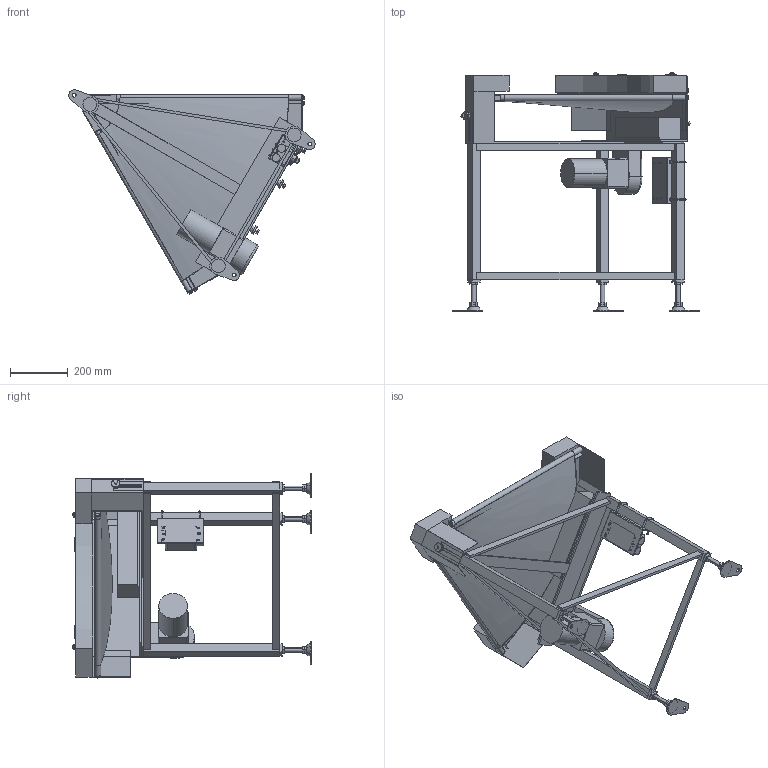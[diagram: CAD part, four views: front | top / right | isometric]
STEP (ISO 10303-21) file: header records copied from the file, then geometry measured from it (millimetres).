
FILE_DESCRIPTION( (''), '2;1');
FILE_NAME ('GFBC-UD-309-500-60°-L-K-60.stp','2025-01-31T10:03:27',(''),(''),'spGate 20.6.2 (****-****-****-****)','','');
FILE_SCHEMA (('AUTOMOTIVE_DESIGN'));
Length unit declared in the file: millimetre
Products named in the file (55): NewModel; TEMP_X_T-prt0; TEMP_X_T-prt1; TEMP_X_T-prt2; TEMP_X_T-prt3; TEMP_X_T-prt4; TEMP_X_T-prt5; TEMP_X_T-prt6; TEMP_X_T-prt7; TEMP_X_T-prt8; TEMP_X_T-prt9; TEMP_X_T-prt10; TEMP_X_T-prt11; TEMP_X_T-prt12; TEMP_X_T-prt13; TEMP_X_T-prt14; TEMP_X_T-prt15; TEMP_X_T-prt16; TEMP_X_T-prt17; TEMP_X_T-prt18; TEMP_X_T-prt19; TEMP_X_T-prt20; TEMP_X_T-prt21; TEMP_X_T-prt22; TEMP_X_T-prt23; TEMP_X_T-prt24; TEMP_X_T-prt25; TEMP_X_T-prt26; TEMP_X_T-prt27; TEMP_X_T-prt28; TEMP_X_T-prt29; TEMP_X_T-prt30; TEMP_X_T-prt31; TEMP_X_T-prt32; TEMP_X_T-prt33; TEMP_X_T-prt34; TEMP_X_T-prt35; TEMP_X_T-prt36; TEMP_X_T-prt37; TEMP_X_T-prt38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
Assembly tree (54 placements, depth 2):
  NewModel
    TEMP_X_T-prt0
    TEMP_X_T-prt1
    TEMP_X_T-prt2
    TEMP_X_T-prt3
    TEMP_X_T-prt4
    TEMP_X_T-prt5
    TEMP_X_T-prt6
    TEMP_X_T-prt7
    TEMP_X_T-prt8
    TEMP_X_T-prt9
    TEMP_X_T-prt10
    TEMP_X_T-prt11
    TEMP_X_T-prt12
    TEMP_X_T-prt13
    TEMP_X_T-prt14
    TEMP_X_T-prt15
    TEMP_X_T-prt16
    TEMP_X_T-prt17
    TEMP_X_T-prt18
    TEMP_X_T-prt19
    TEMP_X_T-prt20
    TEMP_X_T-prt21
    TEMP_X_T-prt22
    TEMP_X_T-prt23
    TEMP_X_T-prt24
    TEMP_X_T-prt25
    TEMP_X_T-prt26
    TEMP_X_T-prt27
    TEMP_X_T-prt28
    TEMP_X_T-prt29
    TEMP_X_T-prt30
    TEMP_X_T-prt31
    TEMP_X_T-prt32
    TEMP_X_T-prt33
    TEMP_X_T-prt34
    TEMP_X_T-prt35
    TEMP_X_T-prt36
    TEMP_X_T-prt37
    TEMP_X_T-prt38
    TEMP_X_T-prt39
    TEMP_X_T-prt40
    TEMP_X_T-prt41
    TEMP_X_T-prt42
    TEMP_X_T-prt43
    TEMP_X_T-prt44
    TEMP_X_T-prt45
    TEMP_X_T-prt46
    TEMP_X_T-prt47
    TEMP_X_T-prt48
    TEMP_X_T-prt49
    TEMP_X_T-prt50
    TEMP_X_T-prt51
    TEMP_X_T-prt52
    TEMP_X_T-prt53
Bounding box: 856.01 x 827.92 x 709.58 mm (x, y, z)
Volume: 17669369.6 mm3; surface area: 3669676.1 mm2
Topology: 54 solids, 54 shells, 1026 faces, 2361 edges, 1526 vertices
Faces by surface type: plane 650, cylinder 282, bspline 90, sphere 4
Entity records: 54032 total; most frequent: CARTESIAN_POINT 10134, ORIENTED_EDGE 4706, DIRECTION 4696, COLOUR_RGB 3433, PRESENTATION_STYLE_ASSIGNMENT 3433, STYLED_ITEM 3433, EDGE_CURVE 2353, DRAUGHTING_PRE_DEFINED_CURVE_FONT 2353
